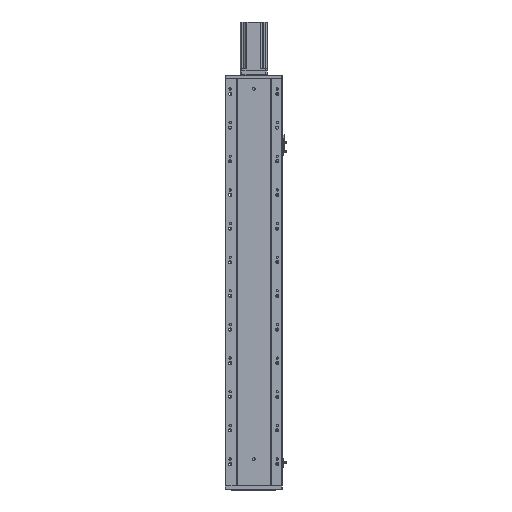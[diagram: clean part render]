
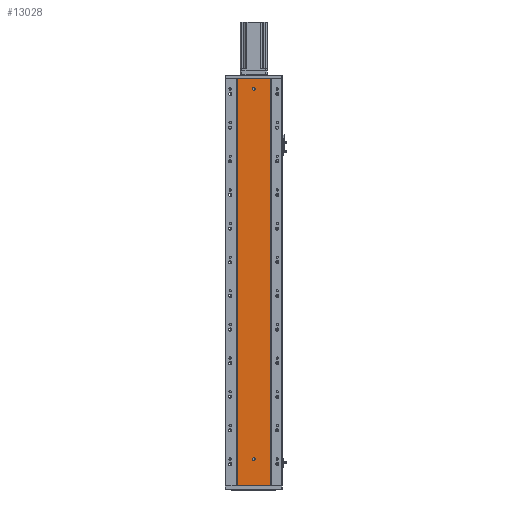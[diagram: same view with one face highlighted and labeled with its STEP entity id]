
A CAD part, front view. The second image highlights one B-rep face of the part: STEP entity #13028.
In plain terms, the highlighted planar face has unit normal (0, -1, 0).
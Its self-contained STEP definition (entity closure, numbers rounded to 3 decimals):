
#473 = VERTEX_POINT ( 'NONE', #26818 ) ;
#1478 = CARTESIAN_POINT ( 'NONE',  ( 86.97, 79.476, 1210. ) ) ;
#1737 = CARTESIAN_POINT ( 'NONE',  ( 86.97, 79.476, 403.333 ) ) ;
#1861 = ORIENTED_EDGE ( 'NONE', *, *, #13960, .F. ) ;
#2001 = EDGE_CURVE ( 'NONE', #37480, #473, #17586, .T. ) ;
#2932 = VERTEX_POINT ( 'NONE', #48589 ) ;
#5427 = DIRECTION ( 'NONE',  ( 0., -1., 0. ) ) ;
#5939 = CARTESIAN_POINT ( 'NONE',  ( 136.47, 79.476, 80. ) ) ;
#6297 = LINE ( 'NONE', #36839, #72466 ) ;
#6991 = ORIENTED_EDGE ( 'NONE', *, *, #32067, .F. ) ;
#7778 = CIRCLE ( 'NONE', #25577, 4. ) ;
#8787 = DIRECTION ( 'NONE',  ( 0., 1., 0. ) ) ;
#8887 = DIRECTION ( 'NONE',  ( 0., 0., -1. ) ) ;
#9066 = CARTESIAN_POINT ( 'NONE',  ( 185.97, 79.476, 0. ) ) ;
#11317 = CARTESIAN_POINT ( 'NONE',  ( 0., 79.476, 1210. ) ) ;
#12811 = VERTEX_POINT ( 'NONE', #61184 ) ;
#13028 = ADVANCED_FACE ( 'NONE', ( #64655, #26005, #69219 ), #38580, .F. ) ;
#13760 = VERTEX_POINT ( 'NONE', #16642 ) ;
#13785 = DIRECTION ( 'NONE',  ( 0., 0., -1. ) ) ;
#13960 = EDGE_CURVE ( 'NONE', #26993, #2932, #33247, .T. ) ;
#14433 = EDGE_CURVE ( 'NONE', #473, #43161, #15508, .T. ) ;
#15508 = B_SPLINE_CURVE_WITH_KNOTS ( 'NONE', 3,
 ( #25256, #66348, #54799, #9066 ),
 .UNSPECIFIED., .F., .F.,
 ( 4, 4 ),
 ( 0., 1. ),
 .UNSPECIFIED. ) ;
#16455 = DIRECTION ( 'NONE',  ( 1., 0., 0. ) ) ;
#16642 = CARTESIAN_POINT ( 'NONE',  ( 136.47, 79.476, 1184. ) ) ;
#16876 = AXIS2_PLACEMENT_3D ( 'NONE', #5939, #5427, #64264 ) ;
#17577 = EDGE_LOOP ( 'NONE', ( #20698, #21419, #51588, #45787 ) ) ;
#17586 = LINE ( 'NONE', #11317, #53370 ) ;
#19914 = EDGE_CURVE ( 'NONE', #2932, #26993, #72906, .T. ) ;
#20230 = CARTESIAN_POINT ( 'NONE',  ( 86.97, 79.476, 0. ) ) ;
#20698 = ORIENTED_EDGE ( 'NONE', *, *, #47599, .T. ) ;
#21057 = ORIENTED_EDGE ( 'NONE', *, *, #64807, .F. ) ;
#21419 = ORIENTED_EDGE ( 'NONE', *, *, #14433, .F. ) ;
#24784 = AXIS2_PLACEMENT_3D ( 'NONE', #32262, #73338, #8887 ) ;
#25256 = CARTESIAN_POINT ( 'NONE',  ( 185.97, 79.476, 1210. ) ) ;
#25577 = AXIS2_PLACEMENT_3D ( 'NONE', #72558, #31491, #65904 ) ;
#26005 = FACE_BOUND ( 'NONE', #72785, .T. ) ;
#26818 = CARTESIAN_POINT ( 'NONE',  ( 185.97, 79.476, 1210. ) ) ;
#26993 = VERTEX_POINT ( 'NONE', #40451 ) ;
#31491 = DIRECTION ( 'NONE',  ( 0., -1., 0. ) ) ;
#32067 = EDGE_CURVE ( 'NONE', #13760, #12811, #7778, .T. ) ;
#32262 = CARTESIAN_POINT ( 'NONE',  ( 136.47, 79.476, 1180. ) ) ;
#33247 = CIRCLE ( 'NONE', #48460, 4. ) ;
#36386 = CARTESIAN_POINT ( 'NONE',  ( 136.47, 79.476, 80. ) ) ;
#36722 = EDGE_CURVE ( 'NONE', #37480, #64067, #55942, .T. ) ;
#36839 = CARTESIAN_POINT ( 'NONE',  ( 0., 79.476, 0. ) ) ;
#37480 = VERTEX_POINT ( 'NONE', #69169 ) ;
#38580 = PLANE ( 'NONE',  #46451 ) ;
#40451 = CARTESIAN_POINT ( 'NONE',  ( 136.47, 79.476, 76. ) ) ;
#40763 = CIRCLE ( 'NONE', #24784, 4. ) ;
#43161 = VERTEX_POINT ( 'NONE', #73893 ) ;
#43341 = EDGE_LOOP ( 'NONE', ( #21057, #6991 ) ) ;
#44465 = DIRECTION ( 'NONE',  ( 0., 0., 1. ) ) ;
#45787 = ORIENTED_EDGE ( 'NONE', *, *, #36722, .T. ) ;
#46451 = AXIS2_PLACEMENT_3D ( 'NONE', #74269, #8787, #44465 ) ;
#47599 = EDGE_CURVE ( 'NONE', #64067, #43161, #6297, .T. ) ;
#48460 = AXIS2_PLACEMENT_3D ( 'NONE', #36386, #65902, #13785 ) ;
#48589 = CARTESIAN_POINT ( 'NONE',  ( 136.47, 79.476, 84. ) ) ;
#48637 = DIRECTION ( 'NONE',  ( 1., 0., 0. ) ) ;
#51588 = ORIENTED_EDGE ( 'NONE', *, *, #2001, .F. ) ;
#53370 = VECTOR ( 'NONE', #16455, 1000. ) ;
#54799 = CARTESIAN_POINT ( 'NONE',  ( 185.97, 79.476, 403.333 ) ) ;
#55942 = B_SPLINE_CURVE_WITH_KNOTS ( 'NONE', 3,
 ( #1478, #72131, #1737, #20230 ),
 .UNSPECIFIED., .F., .F.,
 ( 4, 4 ),
 ( 0., 1. ),
 .UNSPECIFIED. ) ;
#61184 = CARTESIAN_POINT ( 'NONE',  ( 136.47, 79.476, 1176. ) ) ;
#64067 = VERTEX_POINT ( 'NONE', #71639 ) ;
#64264 = DIRECTION ( 'NONE',  ( 0., 0., -1. ) ) ;
#64655 = FACE_BOUND ( 'NONE', #43341, .T. ) ;
#64807 = EDGE_CURVE ( 'NONE', #12811, #13760, #40763, .T. ) ;
#65073 = ORIENTED_EDGE ( 'NONE', *, *, #19914, .F. ) ;
#65902 = DIRECTION ( 'NONE',  ( 0., -1., 0. ) ) ;
#65904 = DIRECTION ( 'NONE',  ( 0., 0., -1. ) ) ;
#66348 = CARTESIAN_POINT ( 'NONE',  ( 185.97, 79.476, 806.667 ) ) ;
#69169 = CARTESIAN_POINT ( 'NONE',  ( 86.97, 79.476, 1210. ) ) ;
#69219 = FACE_OUTER_BOUND ( 'NONE', #17577, .T. ) ;
#71639 = CARTESIAN_POINT ( 'NONE',  ( 86.97, 79.476, 0. ) ) ;
#72131 = CARTESIAN_POINT ( 'NONE',  ( 86.97, 79.476, 806.667 ) ) ;
#72466 = VECTOR ( 'NONE', #48637, 1000. ) ;
#72558 = CARTESIAN_POINT ( 'NONE',  ( 136.47, 79.476, 1180. ) ) ;
#72785 = EDGE_LOOP ( 'NONE', ( #1861, #65073 ) ) ;
#72906 = CIRCLE ( 'NONE', #16876, 4. ) ;
#73338 = DIRECTION ( 'NONE',  ( 0., -1., 0. ) ) ;
#73893 = CARTESIAN_POINT ( 'NONE',  ( 185.97, 79.476, 0. ) ) ;
#74269 = CARTESIAN_POINT ( 'NONE',  ( 0., 79.476, 1210. ) ) ;
